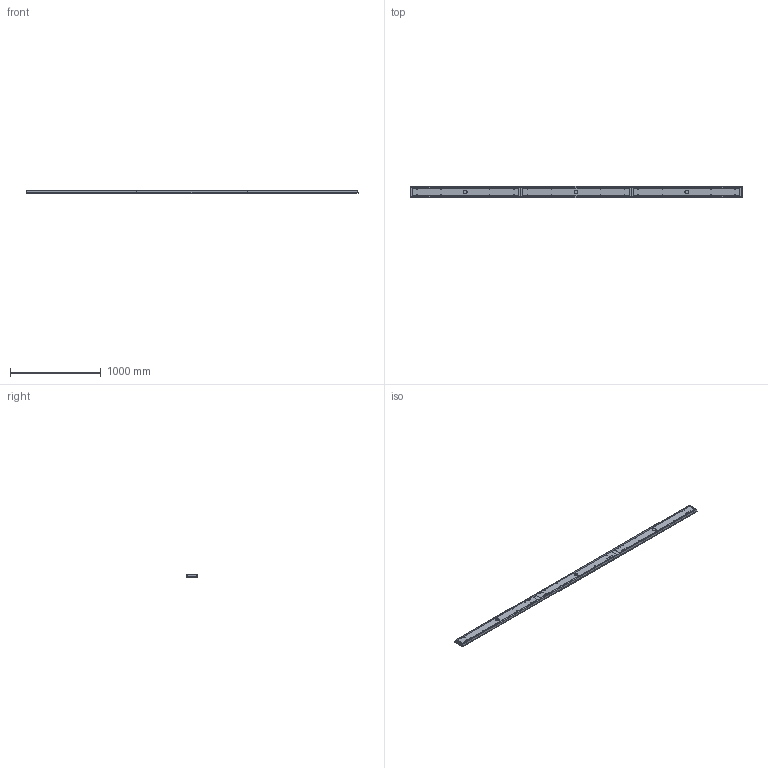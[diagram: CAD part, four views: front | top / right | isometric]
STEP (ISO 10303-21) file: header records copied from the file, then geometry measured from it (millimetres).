
FILE_DESCRIPTION(/* description */ (''),/* implementation_level */ '2;1');
FILE_NAME(/* name */ 'SkLO_Linear_Canopy_12''_MCL012_3D',/* time_stamp */ '2024-10-18T21:46:23+02:00',/* author */ (''),/* organization */ (''),/* preprocessor_version */ 'ST-DEVELOPER v16.5',/* originating_system */ 'Rhino 7.34',/* authorisation */ '');
FILE_SCHEMA (('CONFIG_CONTROL_DESIGN'));
Length unit declared in the file: millimetre
Products named in the file (1): Document
Bounding box: 3660 x 127 x 28.3 mm (x, y, z)
Volume: 2791293.3 mm3; surface area: 1930159.1 mm2
Topology: 6 solids, 22 shells, 479 faces, 1221 edges, 794 vertices
Faces by surface type: cylinder 193, plane 180, bspline 106
Full cylindrical faces by diameter (mm): 3 x48, 5.249 x16, 6 x34, 6.2 x42, 10 x18, 40 x3
Entity records: 21760 total; most frequent: CARTESIAN_POINT 14041, ORIENTED_EDGE 2286, EDGE_CURVE 1151, VERTEX_POINT 740, EDGE_LOOP 657, B_SPLINE_CURVE_WITH_KNOTS 485, ADVANCED_FACE 479, FACE_OUTER_BOUND 479
